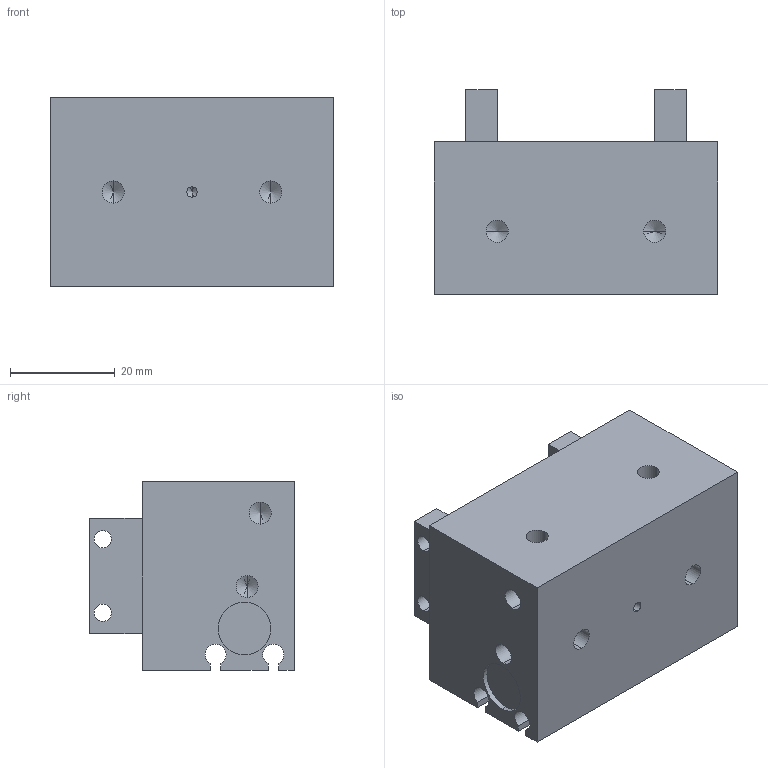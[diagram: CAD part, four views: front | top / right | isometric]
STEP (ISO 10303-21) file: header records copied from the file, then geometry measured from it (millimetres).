
FILE_DESCRIPTION (( 'STEP AP203' ), '1' );
FILE_NAME ('Assemblage2.STEP', '2012-12-12T15:46:45', ( '' ), ( '' ), 'SwSTEP 2.0', 'SolidWorks 2010', '' );
FILE_SCHEMA (( 'CONFIG_CONTROL_DESIGN' ));
Length unit declared in the file: millimetre
Products named in the file (3): Assemblage2; CHU 12 CORP; CHU 12 DOIGT DROIT
Assembly tree (3 placements, depth 2):
  Assemblage2
    CHU 12 DOIGT DROIT  x2
    CHU 12 CORP
Bounding box: 54 x 39 x 36 mm (x, y, z)
Volume: 52439 mm3; surface area: 16657 mm2
Topology: 3 solids, 3 shells, 87 faces, 220 edges, 135 vertices
Faces by surface type: plane 37, cylinder 36, cone 14
Entity records: 2470 total; most frequent: DIRECTION 397, CARTESIAN_POINT 366, ORIENTED_EDGE 346, EDGE_CURVE 173, AXIS2_PLACEMENT_3D 144, VERTEX_POINT 113, LINE 109, VECTOR 109
